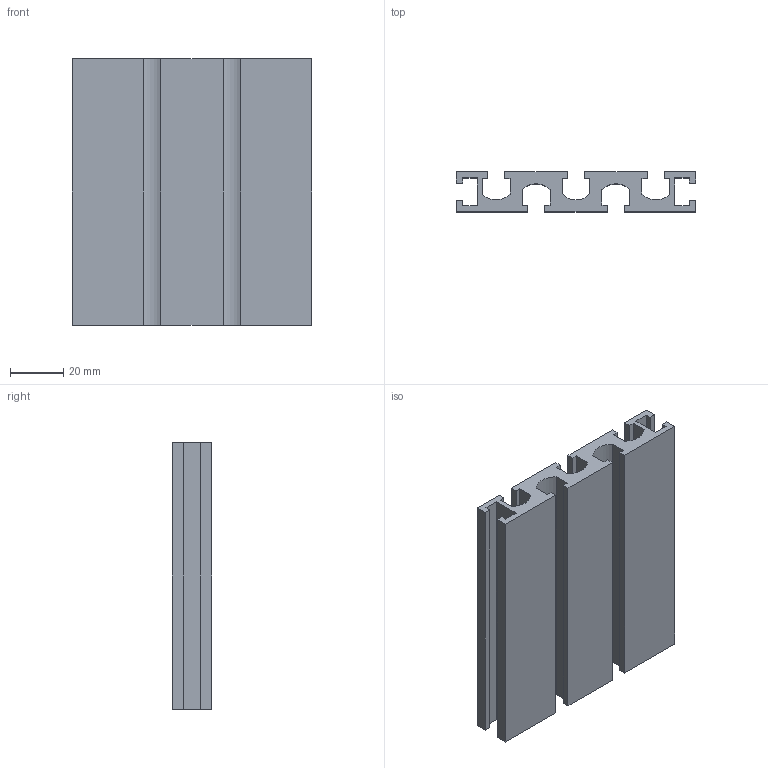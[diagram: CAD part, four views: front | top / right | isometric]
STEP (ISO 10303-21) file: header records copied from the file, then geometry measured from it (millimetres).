
FILE_DESCRIPTION(/* description */ ('Unknown'),/* implementation_level */ '2;1');
FILE_NAME(/* name */ 'NM1590',/* time_stamp */ '2026-08-31T11:11:23+08:00',/* author */ ('Unknown'),/* organization */ ('Unknown'),/* preprocessor_version */ 'ST-DEVELOPER v16.7',/* originating_system */ 'DEX',/* authorisation */ $);
FILE_SCHEMA (('AUTOMOTIVE_DESIGN {1 0 10303 214 3 1 1}'));
Length unit declared in the file: millimetre
Products named in the file (1): 1590-
Bounding box: 90 x 15 x 100 mm (x, y, z)
Volume: 73609.9 mm3; surface area: 40184.3 mm2
Topology: 1 solids, 1 shells, 62 faces, 180 edges, 120 vertices
Faces by surface type: plane 57, cylinder 5
Entity records: 2044 total; most frequent: CARTESIAN_POINT 363, ORIENTED_EDGE 360, DIRECTION 316, EDGE_CURVE 180, LINE 170, VECTOR 170, VERTEX_POINT 120, AXIS2_PLACEMENT_3D 73
